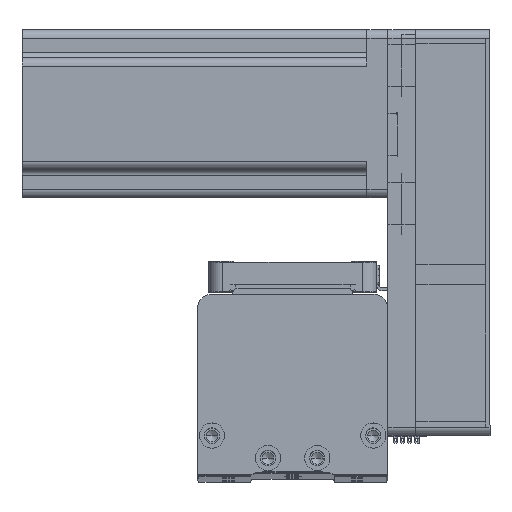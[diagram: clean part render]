
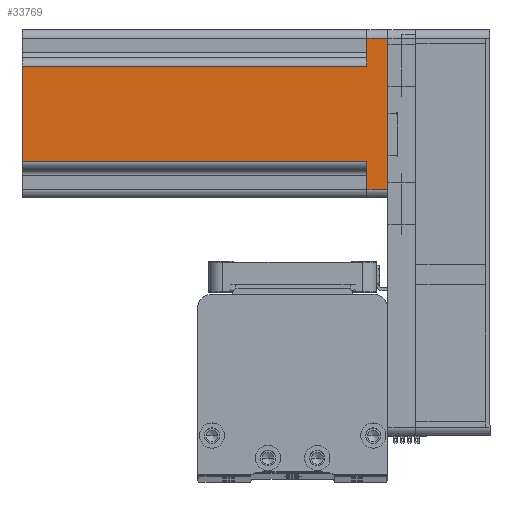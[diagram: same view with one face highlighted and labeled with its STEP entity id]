
A CAD part, top view. The second image highlights one B-rep face of the part: STEP entity #33769.
In plain terms, the highlighted planar face has unit normal (0, 0, 1) as drawn and (0, -1, 0) by its records, which use the part's own axes.
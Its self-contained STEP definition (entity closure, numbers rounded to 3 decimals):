
#516 = ORIENTED_EDGE ( 'NONE', *, *, #30858, .T. ) ;
#1881 = CARTESIAN_POINT ( 'NONE',  ( 27., -30., 130.7 ) ) ;
#2949 = DIRECTION ( 'NONE',  ( -1., 0., 0. ) ) ;
#3032 = DIRECTION ( 'NONE',  ( -1., 0., 0. ) ) ;
#3528 = LINE ( 'NONE', #45971, #13961 ) ;
#4588 = EDGE_CURVE ( 'NONE', #47236, #35557, #23590, .T. ) ;
#4632 = VECTOR ( 'NONE', #17771, 1000. ) ;
#5728 = CARTESIAN_POINT ( 'NONE',  ( -27., -30., 130.7 ) ) ;
#6316 = CARTESIAN_POINT ( 'NONE',  ( -27., -30., 0. ) ) ;
#7493 = CARTESIAN_POINT ( 'NONE',  ( -17., -30., 7.5 ) ) ;
#7905 = DIRECTION ( 'NONE',  ( 1., 0., 0. ) ) ;
#9327 = DIRECTION ( 'NONE',  ( 1., 0., 0. ) ) ;
#10120 = DIRECTION ( 'NONE',  ( 0., 0., 1. ) ) ;
#11399 = ORIENTED_EDGE ( 'NONE', *, *, #22761, .T. ) ;
#11563 = CARTESIAN_POINT ( 'NONE',  ( -17., -30., 130.7 ) ) ;
#11866 = CARTESIAN_POINT ( 'NONE',  ( 30., -30., 130.7 ) ) ;
#12218 = ORIENTED_EDGE ( 'NONE', *, *, #28358, .T. ) ;
#13278 = CARTESIAN_POINT ( 'NONE',  ( 30., -30., 0. ) ) ;
#13415 = LINE ( 'NONE', #26618, #33002 ) ;
#13961 = VECTOR ( 'NONE', #49900, 1000. ) ;
#14803 = VERTEX_POINT ( 'NONE', #7493 ) ;
#16252 = LINE ( 'NONE', #1881, #4632 ) ;
#16321 = LINE ( 'NONE', #11866, #27991 ) ;
#16785 = EDGE_CURVE ( 'NONE', #44097, #22014, #16252, .T. ) ;
#17771 = DIRECTION ( 'NONE',  ( 0., 0., 1. ) ) ;
#18327 = VECTOR ( 'NONE', #9327, 1000. ) ;
#21491 = DIRECTION ( 'NONE',  ( 0., 0., -1. ) ) ;
#22014 = VERTEX_POINT ( 'NONE', #43281 ) ;
#22356 = VECTOR ( 'NONE', #21491, 1000. ) ;
#22761 = EDGE_CURVE ( 'NONE', #35557, #44097, #39140, .T. ) ;
#23590 = LINE ( 'NONE', #5728, #22356 ) ;
#24647 = VECTOR ( 'NONE', #10120, 1000. ) ;
#25280 = EDGE_CURVE ( 'NONE', #29899, #35658, #16321, .T. ) ;
#26420 = DIRECTION ( 'NONE',  ( 0., 1., 0. ) ) ;
#26509 = CARTESIAN_POINT ( 'NONE',  ( 17., -30., 130.7 ) ) ;
#26618 = CARTESIAN_POINT ( 'NONE',  ( -17., -30., 130.7 ) ) ;
#27991 = VECTOR ( 'NONE', #7905, 1000. ) ;
#28358 = EDGE_CURVE ( 'NONE', #29899, #14803, #13415, .T. ) ;
#29810 = ORIENTED_EDGE ( 'NONE', *, *, #25280, .F. ) ;
#29899 = VERTEX_POINT ( 'NONE', #11563 ) ;
#30107 = LINE ( 'NONE', #49920, #49690 ) ;
#30524 = ORIENTED_EDGE ( 'NONE', *, *, #16785, .T. ) ;
#30858 = EDGE_CURVE ( 'NONE', #22014, #36986, #30107, .T. ) ;
#31732 = CARTESIAN_POINT ( 'NONE',  ( -27., -30., 7.5 ) ) ;
#32316 = ORIENTED_EDGE ( 'NONE', *, *, #43172, .F. ) ;
#33002 = VECTOR ( 'NONE', #42326, 1000. ) ;
#33580 = CARTESIAN_POINT ( 'NONE',  ( 17., -30., 130.7 ) ) ;
#33769 = ADVANCED_FACE ( 'NONE', ( #48670 ), #34099, .F. ) ;
#34099 = PLANE ( 'NONE',  #42059 ) ;
#35557 = VERTEX_POINT ( 'NONE', #6316 ) ;
#35658 = VERTEX_POINT ( 'NONE', #26509 ) ;
#36444 = ORIENTED_EDGE ( 'NONE', *, *, #45681, .T. ) ;
#36634 = CARTESIAN_POINT ( 'NONE',  ( 17., -30., 7.5 ) ) ;
#36645 = CARTESIAN_POINT ( 'NONE',  ( 27., -30., 0. ) ) ;
#36986 = VERTEX_POINT ( 'NONE', #36634 ) ;
#39140 = LINE ( 'NONE', #13278, #18327 ) ;
#39832 = EDGE_LOOP ( 'NONE', ( #29810, #12218, #32316, #44811, #11399, #30524, #516, #36444 ) ) ;
#42059 = AXIS2_PLACEMENT_3D ( 'NONE', #49842, #26420, #2949 ) ;
#42326 = DIRECTION ( 'NONE',  ( 0., 0., -1. ) ) ;
#43172 = EDGE_CURVE ( 'NONE', #47236, #14803, #3528, .T. ) ;
#43281 = CARTESIAN_POINT ( 'NONE',  ( 27., -30., 7.5 ) ) ;
#44097 = VERTEX_POINT ( 'NONE', #36645 ) ;
#44811 = ORIENTED_EDGE ( 'NONE', *, *, #4588, .T. ) ;
#45444 = LINE ( 'NONE', #33580, #24647 ) ;
#45681 = EDGE_CURVE ( 'NONE', #36986, #35658, #45444, .T. ) ;
#45971 = CARTESIAN_POINT ( 'NONE',  ( -20., -30., 7.5 ) ) ;
#47236 = VERTEX_POINT ( 'NONE', #31732 ) ;
#48670 = FACE_OUTER_BOUND ( 'NONE', #39832, .T. ) ;
#49690 = VECTOR ( 'NONE', #3032, 1000. ) ;
#49842 = CARTESIAN_POINT ( 'NONE',  ( 30., -30., 130.7 ) ) ;
#49900 = DIRECTION ( 'NONE',  ( 1., 0., 0. ) ) ;
#49920 = CARTESIAN_POINT ( 'NONE',  ( 20., -30., 7.5 ) ) ;
